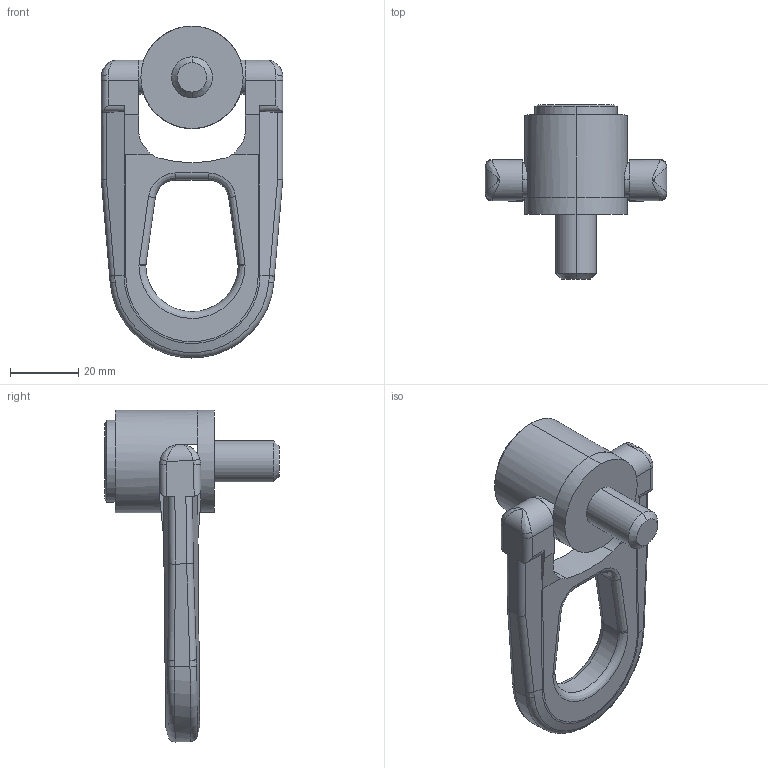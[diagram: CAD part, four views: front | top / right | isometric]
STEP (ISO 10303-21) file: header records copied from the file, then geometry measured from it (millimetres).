
FILE_DESCRIPTION (( 'STEP AP203' ), '1' );
FILE_NAME ('63200.W0012.step', '2013-12-13T15:21:52', ( 'User' ), ( '' ), 'SwSTEP 2.0', 'SolidWorks 2009', '' );
FILE_SCHEMA (( 'CONFIG_CONTROL_DESIGN' ));
Length unit declared in the file: millimetre
Products named in the file (3): 63200.W0012; Part1_63200.W0012; Part2
Assembly tree (2 placements, depth 2):
  63200.W0012
    Part1_63200.W0012
    Part2
Bounding box: 53 x 51 x 97.02 mm (x, y, z)
Volume: 44606.3 mm3; surface area: 14950.1 mm2
Topology: 2 solids, 2 shells, 137 faces, 343 edges, 211 vertices
Faces by surface type: plane 49, cylinder 46, bspline 28, cone 7, torus 7
Entity records: 6512 total; most frequent: CARTESIAN_POINT 3175, ORIENTED_EDGE 686, DIRECTION 583, EDGE_CURVE 343, AXIS2_PLACEMENT_3D 217, VERTEX_POINT 211, VECTOR 149, LINE 149
